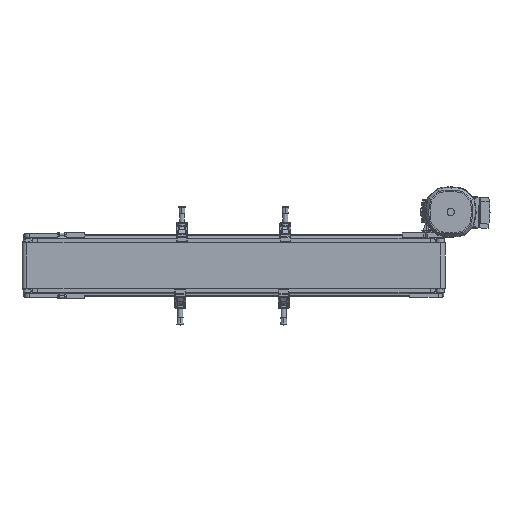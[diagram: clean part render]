
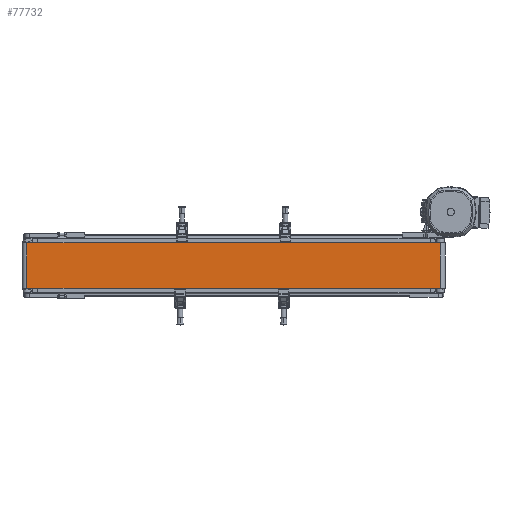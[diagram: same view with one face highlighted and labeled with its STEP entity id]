
A CAD part, front view. The second image highlights one B-rep face of the part: STEP entity #77732.
In plain terms, the highlighted planar face has unit normal (0, -1, 0).
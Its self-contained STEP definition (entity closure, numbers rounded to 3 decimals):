
#470 = VECTOR ( 'NONE', #66490, 1000. ) ;
#5023 = CARTESIAN_POINT ( 'NONE',  ( -500., -12., -55. ) ) ;
#8888 = CARTESIAN_POINT ( 'NONE',  ( -500., -12., 55. ) ) ;
#9594 = ORIENTED_EDGE ( 'NONE', *, *, #36046, .T. ) ;
#13229 = LINE ( 'NONE', #22211, #470 ) ;
#13459 = EDGE_CURVE ( 'NONE', #52362, #84734, #83485, .T. ) ;
#20993 = CARTESIAN_POINT ( 'NONE',  ( -500., -12., -55. ) ) ;
#22211 = CARTESIAN_POINT ( 'NONE',  ( -500., -12., 55. ) ) ;
#23181 = ORIENTED_EDGE ( 'NONE', *, *, #91337, .F. ) ;
#24391 = DIRECTION ( 'NONE',  ( 0., 0., 1. ) ) ;
#24470 = DIRECTION ( 'NONE',  ( 1., 0., 0. ) ) ;
#29289 = LINE ( 'NONE', #75065, #43920 ) ;
#32946 = DIRECTION ( 'NONE',  ( 0., 1., 0. ) ) ;
#36046 = EDGE_CURVE ( 'NONE', #52362, #94998, #13229, .T. ) ;
#37250 = CARTESIAN_POINT ( 'NONE',  ( -500., -12., 55. ) ) ;
#40501 = CARTESIAN_POINT ( 'NONE',  ( 500., -12., -55. ) ) ;
#40512 = PLANE ( 'NONE',  #69193 ) ;
#43920 = VECTOR ( 'NONE', #89183, 1000. ) ;
#44469 = EDGE_CURVE ( 'NONE', #94998, #79803, #89470, .T. ) ;
#51245 = DIRECTION ( 'NONE',  ( 1., 0., 0. ) ) ;
#51847 = CARTESIAN_POINT ( 'NONE',  ( -500., -12., 55. ) ) ;
#52362 = VERTEX_POINT ( 'NONE', #51847 ) ;
#52608 = EDGE_LOOP ( 'NONE', ( #79928, #23181, #70152, #9594 ) ) ;
#62630 = FACE_OUTER_BOUND ( 'NONE', #52608, .T. ) ;
#66490 = DIRECTION ( 'NONE',  ( 0., 0., -1. ) ) ;
#69193 = AXIS2_PLACEMENT_3D ( 'NONE', #8888, #32946, #24391 ) ;
#70152 = ORIENTED_EDGE ( 'NONE', *, *, #13459, .F. ) ;
#72174 = VECTOR ( 'NONE', #51245, 1000. ) ;
#75065 = CARTESIAN_POINT ( 'NONE',  ( 500., -12., 55. ) ) ;
#77732 = ADVANCED_FACE ( 'NONE', ( #62630 ), #40512, .F. ) ;
#79803 = VERTEX_POINT ( 'NONE', #40501 ) ;
#79928 = ORIENTED_EDGE ( 'NONE', *, *, #44469, .T. ) ;
#83485 = LINE ( 'NONE', #37250, #94010 ) ;
#84734 = VERTEX_POINT ( 'NONE', #92122 ) ;
#89183 = DIRECTION ( 'NONE',  ( 0., 0., -1. ) ) ;
#89470 = LINE ( 'NONE', #5023, #72174 ) ;
#91337 = EDGE_CURVE ( 'NONE', #84734, #79803, #29289, .T. ) ;
#92122 = CARTESIAN_POINT ( 'NONE',  ( 500., -12., 55. ) ) ;
#94010 = VECTOR ( 'NONE', #24470, 1000. ) ;
#94998 = VERTEX_POINT ( 'NONE', #20993 ) ;
